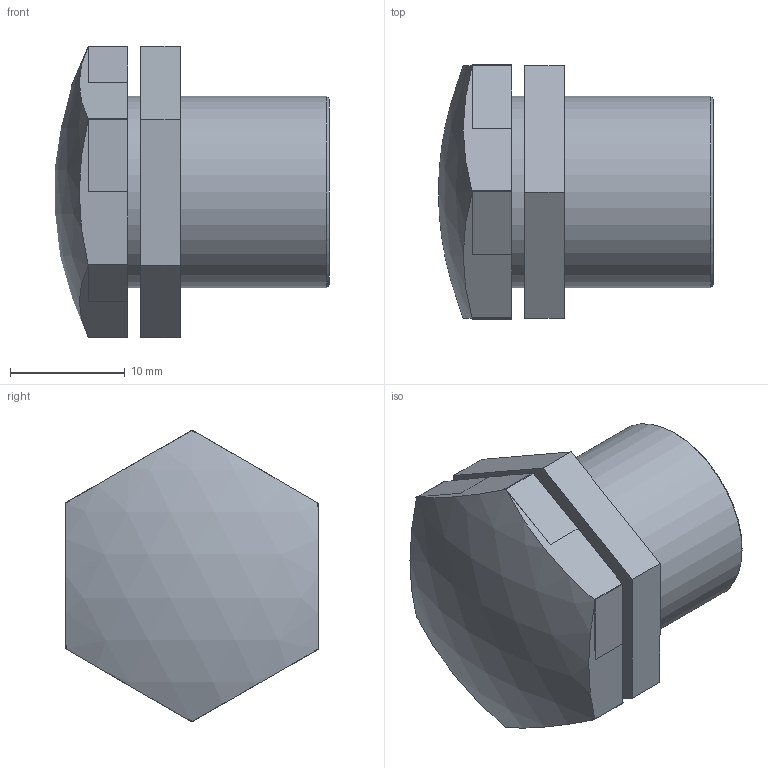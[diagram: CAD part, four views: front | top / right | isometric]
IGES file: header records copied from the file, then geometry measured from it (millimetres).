
Global section: file name: 051707003_0517070030A.ipt; native system: Autodesk Inventor 2015; preprocessor: unknown; author: Кирилл,,11,0; organization: 20170503.073136; date: 20170618.093329; units: millimetre
Bounding box: 23.94 x 22.09 x 25.4 mm (x, y, z)
Volume: 3843 mm3; surface area: 3415.2 mm2
Topology: 7 solids, 7 shells, 52 faces, 127 edges, 93 vertices
Faces by surface type: plane 40, revolution 8, cylinder 2, sphere 1, cone 1
Full cylindrical faces by diameter (mm): 16.662 x2
